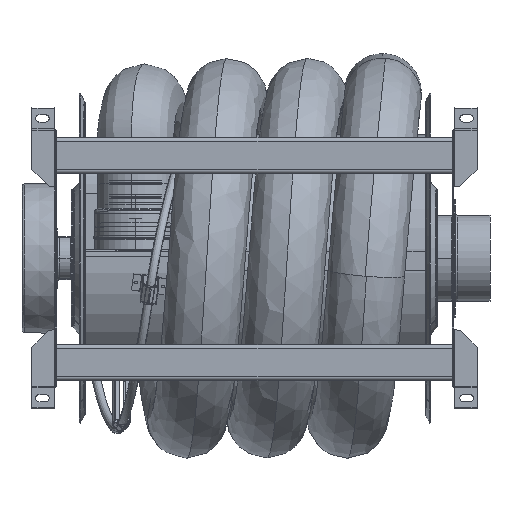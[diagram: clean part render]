
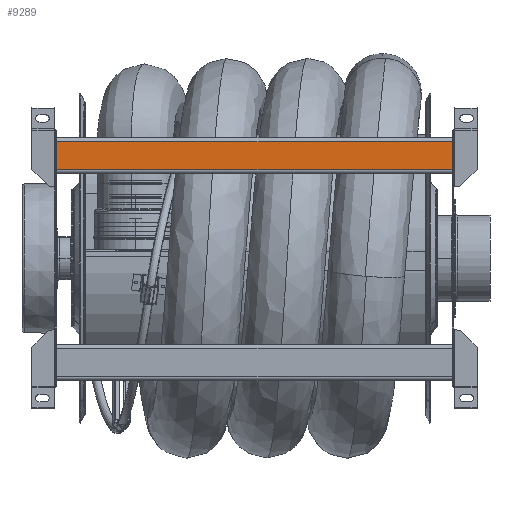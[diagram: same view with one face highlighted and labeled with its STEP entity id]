
A CAD part, front view. The second image highlights one B-rep face of the part: STEP entity #9289.
In plain terms, the highlighted planar face has unit normal (0, -1, 0) as drawn and (0, 1, 0) by its records, which use the part's own axes.
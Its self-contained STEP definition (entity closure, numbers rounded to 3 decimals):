
#8673=DIRECTION('',(0.,0.,1.));
#8674=VECTOR('',#8673,51.903);
#8675=CARTESIAN_POINT('',(0.,0.,-19.));
#8676=LINE('',#8675,#8674);
#8910=DIRECTION('',(0.,0.,1.));
#8911=VECTOR('',#8910,51.903);
#8912=CARTESIAN_POINT('',(-722.,0.,-19.));
#8913=LINE('',#8912,#8911);
#8960=DIRECTION('',(-1.,0.,0.));
#8961=VECTOR('',#8960,722.);
#8962=CARTESIAN_POINT('',(0.,0.,32.903));
#8963=LINE('',#8962,#8961);
#8967=DIRECTION('',(-1.,0.,0.));
#8968=VECTOR('',#8967,722.);
#8969=CARTESIAN_POINT('',(0.,0.,-19.));
#8970=LINE('',#8969,#8968);
#9003=CARTESIAN_POINT('',(-722.,0.,32.903));
#9005=VERTEX_POINT('',#9003);
#9006=CARTESIAN_POINT('',(0.,0.,32.903));
#9007=VERTEX_POINT('',#9006);
#9010=CARTESIAN_POINT('',(-722.,0.,-19.));
#9012=VERTEX_POINT('',#9010);
#9016=CARTESIAN_POINT('',(0.,0.,-19.));
#9017=VERTEX_POINT('',#9016);
#9277=CARTESIAN_POINT('',(0.,0.,-26.));
#9278=DIRECTION('',(0.,1.,0.));
#9279=DIRECTION('',(0.,0.,1.));
#9280=AXIS2_PLACEMENT_3D('',#9277,#9278,#9279);
#9281=PLANE('',#9280);
#9282=ORIENTED_EDGE('',*,*,#9270,.T.);
#9283=ORIENTED_EDGE('',*,*,#9229,.F.);
#9285=ORIENTED_EDGE('',*,*,#9284,.F.);
#9286=ORIENTED_EDGE('',*,*,#9077,.T.);
#9287=EDGE_LOOP('',(#9282,#9283,#9285,#9286));
#9288=FACE_OUTER_BOUND('',#9287,.F.);
#9077=EDGE_CURVE('',#9017,#9007,#8676,.T.);
#9229=EDGE_CURVE('',#9012,#9005,#8913,.T.);
#9270=EDGE_CURVE('',#9007,#9005,#8963,.T.);
#9284=EDGE_CURVE('',#9017,#9012,#8970,.T.);
#9289=ADVANCED_FACE('',(#9288),#9281,.T.);
